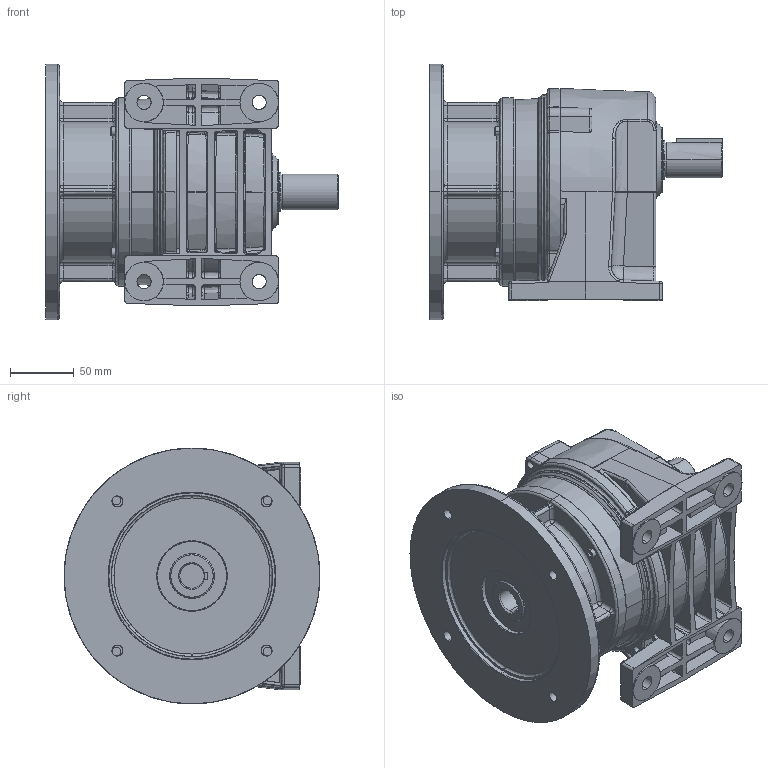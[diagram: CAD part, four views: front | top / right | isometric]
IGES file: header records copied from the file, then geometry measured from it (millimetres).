
Start section: SolidWorks IGES file using analytic representation for surfaces
Bounding box: 229 x 200 x 200 mm (x, y, z)
Surface area: 308511.2 mm2 (no closed solid volume)
Topology: 0 solids, 0 shells, 798 faces, 9838 edges, 9808 vertices
Faces by surface type: bspline 447, revolution 351
